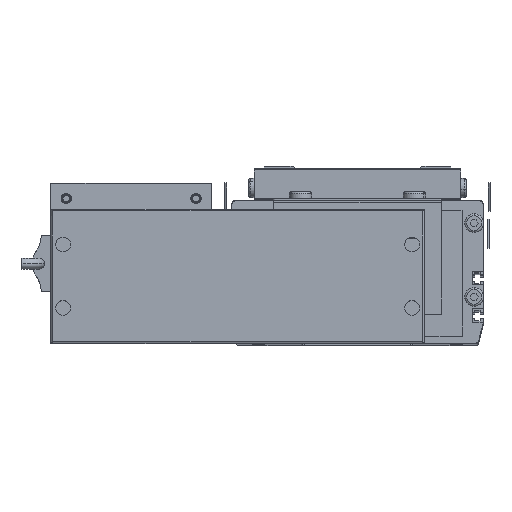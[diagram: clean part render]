
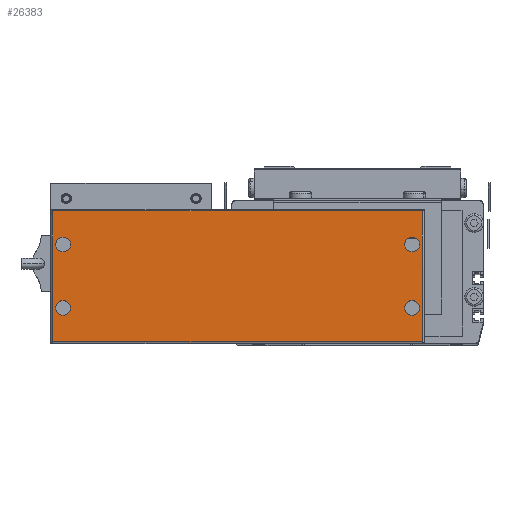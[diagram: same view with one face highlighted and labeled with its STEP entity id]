
A CAD part, top view. The second image highlights one B-rep face of the part: STEP entity #26383.
In plain terms, the highlighted planar face has unit normal (0, 0, 1).
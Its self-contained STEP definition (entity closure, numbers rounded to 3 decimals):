
#5081 = DIRECTION ( 'NONE',  ( 0., -1., 0. ) ) ;
#5675 = FACE_BOUND ( 'NONE', #26390, .T. ) ;
#5699 = DIRECTION ( 'NONE',  ( 0., 1., 0. ) ) ;
#5700 = VECTOR ( 'NONE', #5699, 1000. ) ;
#5701 = CARTESIAN_POINT ( 'NONE',  ( 34.75, 72., 44. ) ) ;
#5702 = LINE ( 'NONE', #5701, #5700 ) ;
#5713 = AXIS2_PLACEMENT_3D ( 'NONE', #5790, #5789, #5788 ) ;
#5727 = DIRECTION ( 'NONE',  ( 1., 0., 0. ) ) ;
#5728 = DIRECTION ( 'NONE',  ( 0., 0., 1. ) ) ;
#5729 = CARTESIAN_POINT ( 'NONE',  ( -164.25, 0., 44. ) ) ;
#5730 = AXIS2_PLACEMENT_3D ( 'NONE', #5729, #5728, #5727 ) ;
#5731 = PLANE ( 'NONE',  #5730 ) ;
#5735 = CIRCLE ( 'NONE', #5713, 4. ) ;
#5765 = FACE_BOUND ( 'NONE', #26634, .T. ) ;
#5776 = CARTESIAN_POINT ( 'NONE',  ( -163.25, 1., 44. ) ) ;
#5777 = FACE_BOUND ( 'NONE', #26422, .T. ) ;
#5787 = FACE_OUTER_BOUND ( 'NONE', #26694, .T. ) ;
#5788 = DIRECTION ( 'NONE',  ( 1., 0., 0. ) ) ;
#5789 = DIRECTION ( 'NONE',  ( 0., 0., 1. ) ) ;
#5790 = CARTESIAN_POINT ( 'NONE',  ( 29.25, 53., 44. ) ) ;
#5794 = FACE_BOUND ( 'NONE', #26372, .T. ) ;
#5813 = LINE ( 'NONE', #5834, #5833 ) ;
#5815 = CIRCLE ( 'NONE', #5817, 4. ) ;
#5817 = AXIS2_PLACEMENT_3D ( 'NONE', #5824, #5831, #5837 ) ;
#5824 = CARTESIAN_POINT ( 'NONE',  ( -157.75, 53., 44. ) ) ;
#5831 = DIRECTION ( 'NONE',  ( 0., 0., 1. ) ) ;
#5833 = VECTOR ( 'NONE', #5081, 1000. ) ;
#5834 = CARTESIAN_POINT ( 'NONE',  ( -163.25, 0., 44. ) ) ;
#5837 = DIRECTION ( 'NONE',  ( 1., 0., 0. ) ) ;
#5842 = CARTESIAN_POINT ( 'NONE',  ( 34.75, 1., 44. ) ) ;
#5927 = DIRECTION ( 'NONE',  ( 1., 0., 0. ) ) ;
#5932 = VECTOR ( 'NONE', #5955, 1000. ) ;
#5933 = CARTESIAN_POINT ( 'NONE',  ( 35.75, 1., 44. ) ) ;
#5934 = LINE ( 'NONE', #5933, #5932 ) ;
#5935 = DIRECTION ( 'NONE',  ( 0., 0., 1. ) ) ;
#5939 = CIRCLE ( 'NONE', #5960, 4. ) ;
#5943 = CARTESIAN_POINT ( 'NONE',  ( 34.75, 71., 44. ) ) ;
#5949 = DIRECTION ( 'NONE',  ( -1., 0., 0. ) ) ;
#5950 = VECTOR ( 'NONE', #5949, 1000. ) ;
#5951 = CARTESIAN_POINT ( 'NONE',  ( -164.25, 71., 44. ) ) ;
#5952 = LINE ( 'NONE', #5951, #5950 ) ;
#5954 = AXIS2_PLACEMENT_3D ( 'NONE', #6022, #5935, #5968 ) ;
#5955 = DIRECTION ( 'NONE',  ( 1., 0., 0. ) ) ;
#5958 = DIRECTION ( 'NONE',  ( 0., 0., 1. ) ) ;
#5959 = CARTESIAN_POINT ( 'NONE',  ( 29.25, 19., 44. ) ) ;
#5960 = AXIS2_PLACEMENT_3D ( 'NONE', #5959, #5958, #5927 ) ;
#5968 = DIRECTION ( 'NONE',  ( 1., 0., 0. ) ) ;
#6013 = CARTESIAN_POINT ( 'NONE',  ( -163.25, 71., 44. ) ) ;
#6022 = CARTESIAN_POINT ( 'NONE',  ( -157.75, 19., 44. ) ) ;
#6027 = CIRCLE ( 'NONE', #5954, 4. ) ;
#13521 = VERTEX_POINT ( 'NONE', #102947 ) ;
#13593 = VERTEX_POINT ( 'NONE', #103042 ) ;
#13594 = VERTEX_POINT ( 'NONE', #103041 ) ;
#13603 = EDGE_CURVE ( 'NONE', #13594, #13593, #103063, .T. ) ;
#13660 = VERTEX_POINT ( 'NONE', #103144 ) ;
#13684 = EDGE_CURVE ( 'NONE', #13791, #14056, #103197, .T. ) ;
#13697 = EDGE_CURVE ( 'NONE', #13886, #13891, #103385, .T. ) ;
#13722 = EDGE_CURVE ( 'NONE', #13521, #13660, #103397, .T. ) ;
#13791 = VERTEX_POINT ( 'NONE', #103382 ) ;
#13886 = VERTEX_POINT ( 'NONE', #103664 ) ;
#13891 = VERTEX_POINT ( 'NONE', #103534 ) ;
#14056 = VERTEX_POINT ( 'NONE', #104058 ) ;
#26317 = EDGE_CURVE ( 'NONE', #13891, #13886, #5735, .T. ) ;
#26358 = ORIENTED_EDGE ( 'NONE', *, *, #13697, .F. ) ;
#26360 = VERTEX_POINT ( 'NONE', #5776 ) ;
#26372 = EDGE_LOOP ( 'NONE', ( #26596, #26697 ) ) ;
#26383 = ADVANCED_FACE ( 'NONE', ( #5675, #5794, #5765, #5777, #5787 ), #5731, .T. ) ;
#26390 = EDGE_LOOP ( 'NONE', ( #26455, #26850 ) ) ;
#26392 = EDGE_CURVE ( 'NONE', #26425, #26699, #5702, .T. ) ;
#26422 = EDGE_LOOP ( 'NONE', ( #26613, #26358 ) ) ;
#26425 = VERTEX_POINT ( 'NONE', #5842 ) ;
#26432 = EDGE_CURVE ( 'NONE', #13660, #13521, #5815, .T. ) ;
#26455 = ORIENTED_EDGE ( 'NONE', *, *, #26432, .F. ) ;
#26474 = ORIENTED_EDGE ( 'NONE', *, *, #26392, .T. ) ;
#26475 = ORIENTED_EDGE ( 'NONE', *, *, #26864, .T. ) ;
#26500 = ORIENTED_EDGE ( 'NONE', *, *, #13684, .F. ) ;
#26521 = ORIENTED_EDGE ( 'NONE', *, *, #26610, .T. ) ;
#26596 = ORIENTED_EDGE ( 'NONE', *, *, #27002, .F. ) ;
#26610 = EDGE_CURVE ( 'NONE', #26633, #26360, #5813, .T. ) ;
#26613 = ORIENTED_EDGE ( 'NONE', *, *, #26317, .F. ) ;
#26618 = ORIENTED_EDGE ( 'NONE', *, *, #26866, .T. ) ;
#26633 = VERTEX_POINT ( 'NONE', #6013 ) ;
#26634 = EDGE_LOOP ( 'NONE', ( #26853, #26500 ) ) ;
#26694 = EDGE_LOOP ( 'NONE', ( #26475, #26474, #26618, #26521 ) ) ;
#26697 = ORIENTED_EDGE ( 'NONE', *, *, #13603, .F. ) ;
#26699 = VERTEX_POINT ( 'NONE', #5943 ) ;
#26726 = EDGE_CURVE ( 'NONE', #14056, #13791, #5939, .T. ) ;
#26850 = ORIENTED_EDGE ( 'NONE', *, *, #13722, .F. ) ;
#26853 = ORIENTED_EDGE ( 'NONE', *, *, #26726, .F. ) ;
#26864 = EDGE_CURVE ( 'NONE', #26360, #26425, #5934, .T. ) ;
#26866 = EDGE_CURVE ( 'NONE', #26699, #26633, #5952, .T. ) ;
#27002 = EDGE_CURVE ( 'NONE', #13593, #13594, #6027, .T. ) ;
#102947 = CARTESIAN_POINT ( 'NONE',  ( -161.75, 53., 44. ) ) ;
#102988 = DIRECTION ( 'NONE',  ( 1., 0., 0. ) ) ;
#102989 = DIRECTION ( 'NONE',  ( 0., 0., 1. ) ) ;
#103037 = AXIS2_PLACEMENT_3D ( 'NONE', #103038, #102989, #102988 ) ;
#103038 = CARTESIAN_POINT ( 'NONE',  ( -157.75, 19., 44. ) ) ;
#103041 = CARTESIAN_POINT ( 'NONE',  ( -161.75, 19., 44. ) ) ;
#103042 = CARTESIAN_POINT ( 'NONE',  ( -153.75, 19., 44. ) ) ;
#103063 = CIRCLE ( 'NONE', #103037, 4. ) ;
#103144 = CARTESIAN_POINT ( 'NONE',  ( -153.75, 53., 44. ) ) ;
#103197 = CIRCLE ( 'NONE', #103285, 4. ) ;
#103274 = CARTESIAN_POINT ( 'NONE',  ( 29.25, 19., 44. ) ) ;
#103284 = DIRECTION ( 'NONE',  ( 1., 0., 0. ) ) ;
#103285 = AXIS2_PLACEMENT_3D ( 'NONE', #103274, #103315, #103284 ) ;
#103315 = DIRECTION ( 'NONE',  ( 0., 0., 1. ) ) ;
#103382 = CARTESIAN_POINT ( 'NONE',  ( 25.25, 19., 44. ) ) ;
#103385 = CIRCLE ( 'NONE', #103499, 4. ) ;
#103387 = DIRECTION ( 'NONE',  ( 1., 0., 0. ) ) ;
#103388 = DIRECTION ( 'NONE',  ( 0., 0., 1. ) ) ;
#103389 = CARTESIAN_POINT ( 'NONE',  ( 29.25, 53., 44. ) ) ;
#103397 = CIRCLE ( 'NONE', #103472, 4. ) ;
#103470 = CARTESIAN_POINT ( 'NONE',  ( -157.75, 53., 44. ) ) ;
#103472 = AXIS2_PLACEMENT_3D ( 'NONE', #103470, #103474, #103473 ) ;
#103473 = DIRECTION ( 'NONE',  ( 1., 0., 0. ) ) ;
#103474 = DIRECTION ( 'NONE',  ( 0., 0., 1. ) ) ;
#103499 = AXIS2_PLACEMENT_3D ( 'NONE', #103389, #103388, #103387 ) ;
#103534 = CARTESIAN_POINT ( 'NONE',  ( 33.25, 53., 44. ) ) ;
#103664 = CARTESIAN_POINT ( 'NONE',  ( 25.25, 53., 44. ) ) ;
#104058 = CARTESIAN_POINT ( 'NONE',  ( 33.25, 19., 44. ) ) ;
